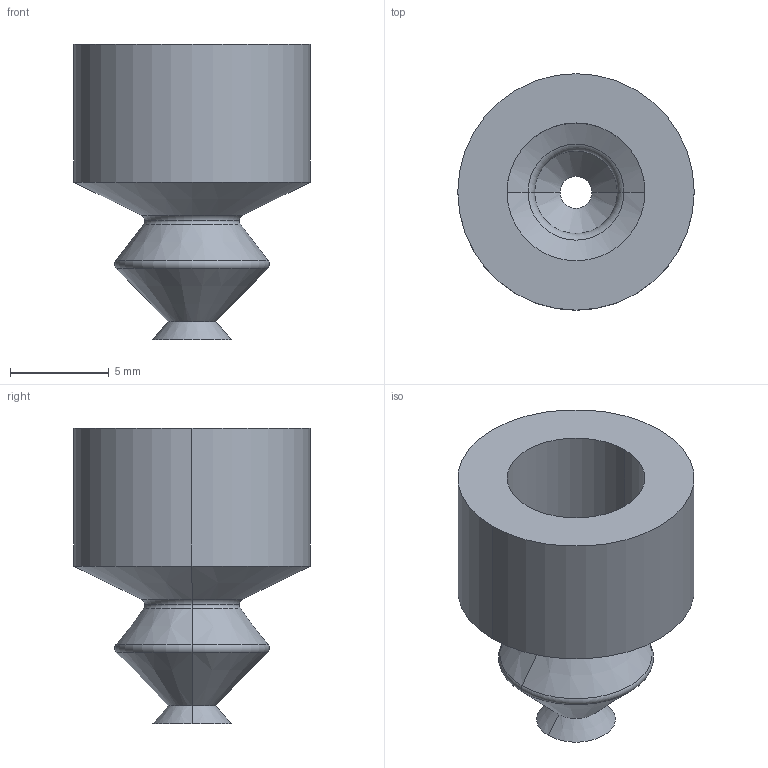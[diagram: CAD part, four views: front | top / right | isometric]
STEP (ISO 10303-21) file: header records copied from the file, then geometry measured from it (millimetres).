
FILE_DESCRIPTION (( 'STEP AP214' ), '1' );
FILE_NAME ('VSH2-S4.STEP', '2019-12-02T03:50:37', ( '微软用户' ), ( '微软中国' ), 'SwSTEP 2.0', 'SolidWorks 2016', '' );
FILE_SCHEMA (( 'AUTOMOTIVE_DESIGN' ));
Length unit declared in the file: millimetre
Products named in the file (1): VSH2-S4
Bounding box: 12 x 12 x 15 mm (x, y, z)
Volume: 462.5 mm3; surface area: 1037.3 mm2
Topology: 1 solids, 1 shells, 35 faces, 70 edges, 38 vertices
Faces by surface type: cone 16, torus 10, cylinder 6, plane 3
Entity records: 942 total; most frequent: DIRECTION 190, CARTESIAN_POINT 144, ORIENTED_EDGE 140, AXIS2_PLACEMENT_3D 84, EDGE_CURVE 70, CIRCLE 48, VERTEX_POINT 38, EDGE_LOOP 38
